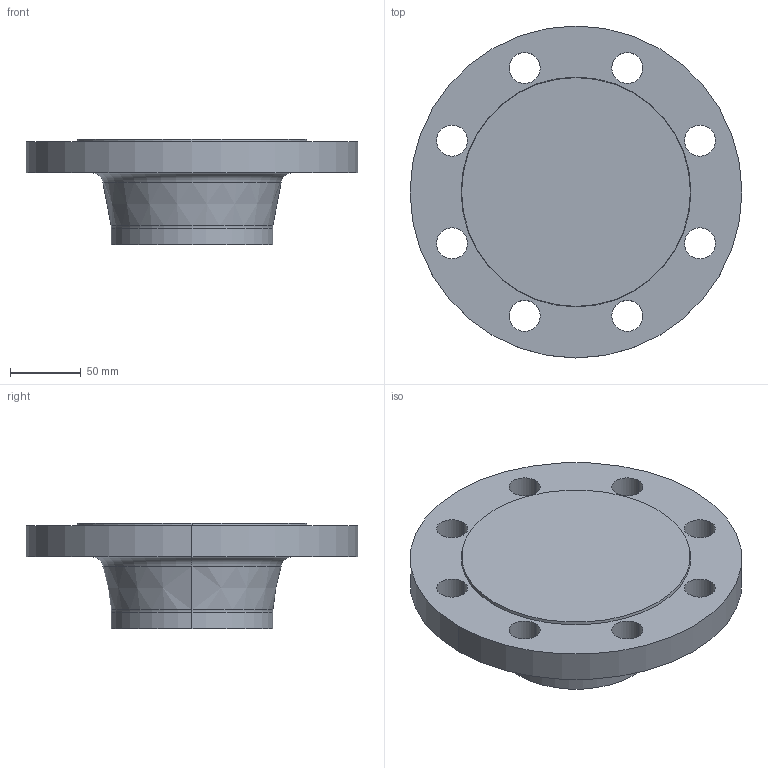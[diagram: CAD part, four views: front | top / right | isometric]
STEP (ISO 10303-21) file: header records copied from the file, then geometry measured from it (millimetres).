
FILE_DESCRIPTION (( 'STEP AP214' ), '1' );
FILE_NAME ('PN40 DN100 Type 21(ii) - Type B Face.STEP', '2019-01-02T00:14:03', ( '' ), ( '' ), 'SwSTEP 2.0', 'SolidWorks 2019', '' );
FILE_SCHEMA (( 'AUTOMOTIVE_DESIGN' ));
Length unit declared in the file: millimetre
Products named in the file (1): PN40 DN100 Type 21(ii) - Type B Face
Bounding box: 235 x 235 x 75 mm (x, y, z)
Volume: 1507296.2 mm3; surface area: 125744.7 mm2
Topology: 1 solids, 1 shells, 32 faces, 78 edges, 50 vertices
Faces by surface type: cylinder 20, torus 4, cone 4, plane 4
Entity records: 1034 total; most frequent: DIRECTION 198, CARTESIAN_POINT 161, ORIENTED_EDGE 156, AXIS2_PLACEMENT_3D 87, EDGE_CURVE 78, CIRCLE 54, EDGE_LOOP 50, VERTEX_POINT 50
